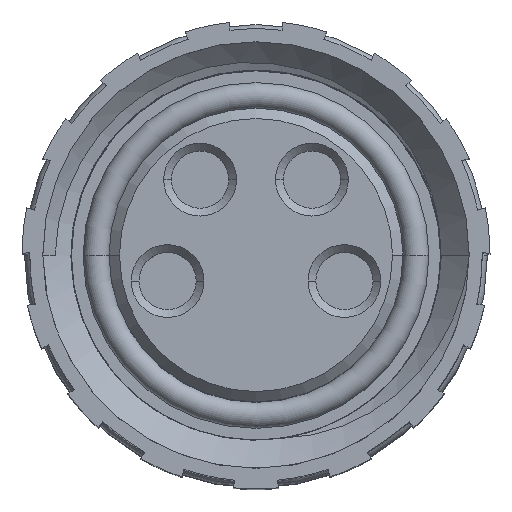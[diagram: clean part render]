
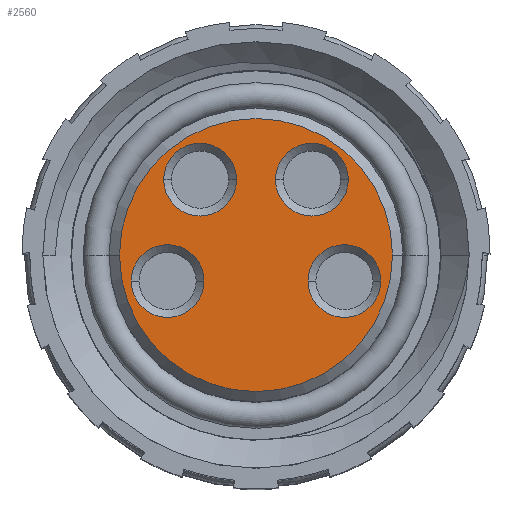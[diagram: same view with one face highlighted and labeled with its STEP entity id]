
A CAD part, top view. The second image highlights one B-rep face of the part: STEP entity #2560.
In plain terms, the highlighted planar face has unit normal (0, 0, 1).
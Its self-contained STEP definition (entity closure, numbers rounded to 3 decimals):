
#9 = FACE_OUTER_BOUND ( 'NONE', #8352, .T. ) ;
#32 = CARTESIAN_POINT ( 'NONE',  ( -1.7, -0.5, 0. ) ) ;
#35 = CARTESIAN_POINT ( 'NONE',  ( 2.625, 0., 0. ) ) ;
#182 = DIRECTION ( 'NONE',  ( -1., 0., 0. ) ) ;
#200 = VERTEX_POINT ( 'NONE', #448 ) ;
#235 = DIRECTION ( 'NONE',  ( 0., 0., 1. ) ) ;
#432 = EDGE_LOOP ( 'NONE', ( #3292, #5025 ) ) ;
#448 = CARTESIAN_POINT ( 'NONE',  ( -2.625, 0., 0. ) ) ;
#572 = ORIENTED_EDGE ( 'NONE', *, *, #4343, .F. ) ;
#963 = DIRECTION ( 'NONE',  ( 1., 0., 0. ) ) ;
#1033 = DIRECTION ( 'NONE',  ( 0., 0., 1. ) ) ;
#1128 = CIRCLE ( 'NONE', #1443, 0.7 ) ;
#1132 = DIRECTION ( 'NONE',  ( 1., 0., 0. ) ) ;
#1150 = CIRCLE ( 'NONE', #6735, 0.7 ) ;
#1443 = AXIS2_PLACEMENT_3D ( 'NONE', #4280, #1984, #1132 ) ;
#1492 = DIRECTION ( 'NONE',  ( 0., 0., -1. ) ) ;
#1520 = CARTESIAN_POINT ( 'NONE',  ( 1.075, 1.45, 0. ) ) ;
#1579 = FACE_BOUND ( 'NONE', #8664, .T. ) ;
#1617 = CARTESIAN_POINT ( 'NONE',  ( 1., -0.5, 0. ) ) ;
#1709 = CARTESIAN_POINT ( 'NONE',  ( 0.375, 1.45, 0. ) ) ;
#1891 = DIRECTION ( 'NONE',  ( 1., 0., 0. ) ) ;
#1970 = ORIENTED_EDGE ( 'NONE', *, *, #3069, .T. ) ;
#1984 = DIRECTION ( 'NONE',  ( 0., 0., 1. ) ) ;
#2124 = DIRECTION ( 'NONE',  ( 0., 0., 1. ) ) ;
#2265 = AXIS2_PLACEMENT_3D ( 'NONE', #32, #4004, #963 ) ;
#2328 = EDGE_CURVE ( 'NONE', #4602, #7627, #7150, .T. ) ;
#2560 = ADVANCED_FACE ( 'NONE', ( #9, #1579, #8335, #3928, #5297 ), #5341, .F. ) ;
#2623 = CARTESIAN_POINT ( 'NONE',  ( -1.775, 1.45, 0. ) ) ;
#2659 = CARTESIAN_POINT ( 'NONE',  ( 2.4, -0.5, 0. ) ) ;
#2817 = ORIENTED_EDGE ( 'NONE', *, *, #5400, .F. ) ;
#2888 = EDGE_LOOP ( 'NONE', ( #4400, #3715 ) ) ;
#3069 = EDGE_CURVE ( 'NONE', #8776, #200, #4774, .T. ) ;
#3292 = ORIENTED_EDGE ( 'NONE', *, *, #7095, .F. ) ;
#3369 = DIRECTION ( 'NONE',  ( 0., 0., 1. ) ) ;
#3404 = CIRCLE ( 'NONE', #5633, 0.7 ) ;
#3715 = ORIENTED_EDGE ( 'NONE', *, *, #2328, .F. ) ;
#3928 = FACE_BOUND ( 'NONE', #2888, .T. ) ;
#4004 = DIRECTION ( 'NONE',  ( 0., 0., 1. ) ) ;
#4280 = CARTESIAN_POINT ( 'NONE',  ( -1.075, 1.45, 0. ) ) ;
#4342 = CIRCLE ( 'NONE', #6570, 0.7 ) ;
#4343 = EDGE_CURVE ( 'NONE', #5574, #7346, #1128, .T. ) ;
#4400 = ORIENTED_EDGE ( 'NONE', *, *, #8905, .F. ) ;
#4544 = CARTESIAN_POINT ( 'NONE',  ( -2.4, -0.5, 0. ) ) ;
#4585 = DIRECTION ( 'NONE',  ( -1., 0., 0. ) ) ;
#4602 = VERTEX_POINT ( 'NONE', #1617 ) ;
#4603 = AXIS2_PLACEMENT_3D ( 'NONE', #6287, #8588, #1891 ) ;
#4651 = ORIENTED_EDGE ( 'NONE', *, *, #5519, .F. ) ;
#4653 = VERTEX_POINT ( 'NONE', #1709 ) ;
#4773 = DIRECTION ( 'NONE',  ( 1., 0., 0. ) ) ;
#4774 = CIRCLE ( 'NONE', #6045, 2.625 ) ;
#4844 = CIRCLE ( 'NONE', #5007, 0.7 ) ;
#4869 = DIRECTION ( 'NONE',  ( 0., 0., 1. ) ) ;
#4933 = VERTEX_POINT ( 'NONE', #7557 ) ;
#4983 = CARTESIAN_POINT ( 'NONE',  ( 0., 0., 0. ) ) ;
#5007 = AXIS2_PLACEMENT_3D ( 'NONE', #6347, #4869, #9345 ) ;
#5025 = ORIENTED_EDGE ( 'NONE', *, *, #7595, .F. ) ;
#5191 = DIRECTION ( 'NONE',  ( 1., 0., 0. ) ) ;
#5297 = FACE_BOUND ( 'NONE', #9857, .T. ) ;
#5341 = PLANE ( 'NONE',  #5719 ) ;
#5400 = EDGE_CURVE ( 'NONE', #4653, #8098, #1150, .T. ) ;
#5519 = EDGE_CURVE ( 'NONE', #8098, #4653, #4342, .T. ) ;
#5521 = DIRECTION ( 'NONE',  ( 0., 0., 1. ) ) ;
#5574 = VERTEX_POINT ( 'NONE', #7909 ) ;
#5633 = AXIS2_PLACEMENT_3D ( 'NONE', #9672, #2124, #5191 ) ;
#5719 = AXIS2_PLACEMENT_3D ( 'NONE', #9175, #1492, #4585 ) ;
#5828 = DIRECTION ( 'NONE',  ( 1., 0., 0. ) ) ;
#6045 = AXIS2_PLACEMENT_3D ( 'NONE', #6209, #3369, #182 ) ;
#6209 = CARTESIAN_POINT ( 'NONE',  ( 0., 0., 0. ) ) ;
#6263 = CARTESIAN_POINT ( 'NONE',  ( 1.075, 1.45, 0. ) ) ;
#6287 = CARTESIAN_POINT ( 'NONE',  ( 1.7, -0.5, 0. ) ) ;
#6347 = CARTESIAN_POINT ( 'NONE',  ( 1.7, -0.5, 0. ) ) ;
#6479 = CARTESIAN_POINT ( 'NONE',  ( 1.775, 1.45, 0. ) ) ;
#6570 = AXIS2_PLACEMENT_3D ( 'NONE', #6263, #5521, #4773 ) ;
#6669 = EDGE_CURVE ( 'NONE', #200, #8776, #7852, .T. ) ;
#6725 = CARTESIAN_POINT ( 'NONE',  ( -1.7, -0.5, 0. ) ) ;
#6735 = AXIS2_PLACEMENT_3D ( 'NONE', #1520, #235, #7716 ) ;
#7095 = EDGE_CURVE ( 'NONE', #4933, #7813, #7230, .T. ) ;
#7150 = CIRCLE ( 'NONE', #4603, 0.7 ) ;
#7230 = CIRCLE ( 'NONE', #7860, 0.7 ) ;
#7346 = VERTEX_POINT ( 'NONE', #2623 ) ;
#7557 = CARTESIAN_POINT ( 'NONE',  ( -1., -0.5, 0. ) ) ;
#7595 = EDGE_CURVE ( 'NONE', #7813, #4933, #8005, .T. ) ;
#7627 = VERTEX_POINT ( 'NONE', #2659 ) ;
#7716 = DIRECTION ( 'NONE',  ( 1., 0., 0. ) ) ;
#7813 = VERTEX_POINT ( 'NONE', #4544 ) ;
#7825 = ORIENTED_EDGE ( 'NONE', *, *, #6669, .T. ) ;
#7852 = CIRCLE ( 'NONE', #8183, 2.625 ) ;
#7860 = AXIS2_PLACEMENT_3D ( 'NONE', #6725, #9729, #5828 ) ;
#7869 = DIRECTION ( 'NONE',  ( -1., 0., 0. ) ) ;
#7909 = CARTESIAN_POINT ( 'NONE',  ( -0.375, 1.45, 0. ) ) ;
#8005 = CIRCLE ( 'NONE', #2265, 0.7 ) ;
#8098 = VERTEX_POINT ( 'NONE', #6479 ) ;
#8183 = AXIS2_PLACEMENT_3D ( 'NONE', #4983, #1033, #7869 ) ;
#8335 = FACE_BOUND ( 'NONE', #432, .T. ) ;
#8352 = EDGE_LOOP ( 'NONE', ( #7825, #1970 ) ) ;
#8588 = DIRECTION ( 'NONE',  ( 0., 0., 1. ) ) ;
#8632 = EDGE_CURVE ( 'NONE', #7346, #5574, #3404, .T. ) ;
#8664 = EDGE_LOOP ( 'NONE', ( #4651, #2817 ) ) ;
#8776 = VERTEX_POINT ( 'NONE', #35 ) ;
#8905 = EDGE_CURVE ( 'NONE', #7627, #4602, #4844, .T. ) ;
#9175 = CARTESIAN_POINT ( 'NONE',  ( 0., 0., 0. ) ) ;
#9249 = ORIENTED_EDGE ( 'NONE', *, *, #8632, .F. ) ;
#9345 = DIRECTION ( 'NONE',  ( 1., 0., 0. ) ) ;
#9672 = CARTESIAN_POINT ( 'NONE',  ( -1.075, 1.45, 0. ) ) ;
#9729 = DIRECTION ( 'NONE',  ( 0., 0., 1. ) ) ;
#9857 = EDGE_LOOP ( 'NONE', ( #572, #9249 ) ) ;
